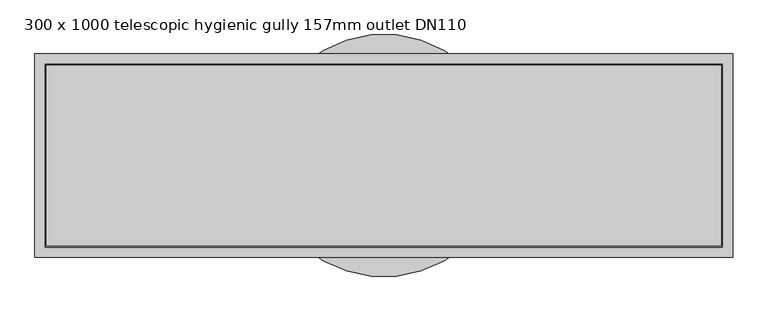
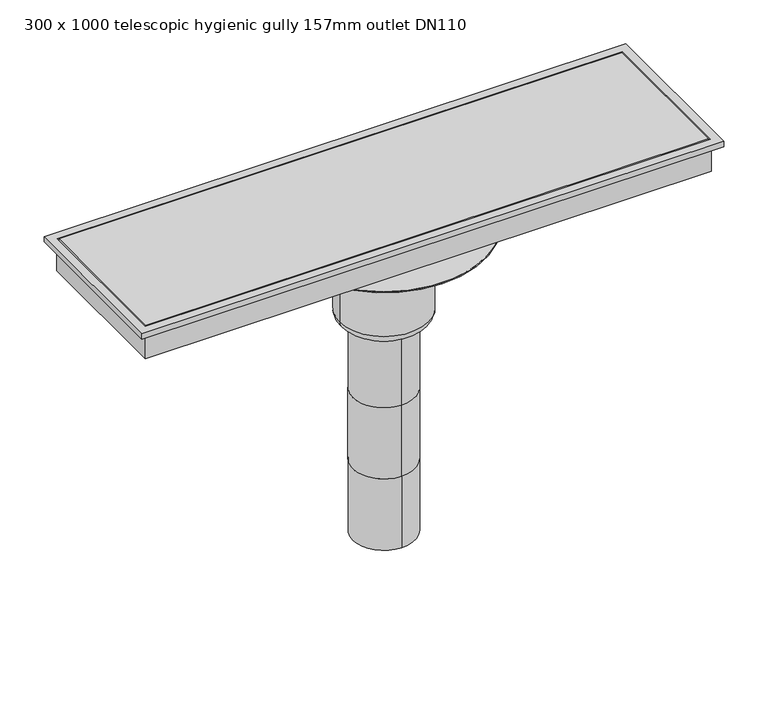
"""IFC4 building model written with IfcOpenShell, lengths in millimetres: sanitary terminal geometry, PF_ST_UN_Siphon telescopics eskis elongated hygiene first_ACO : 300 x 1000 telescopic hygienic gully 157mm outlet DN110."""

import ifcopenshell
import ifcopenshell.guid

model = None  # the IFC model being written
_history = None  # IfcOwnerHistory: only IFC2X3 demands one
_inside = {}  # id of a spatial element -> (the spatial element, [elements in it])
_under = {}  # id of a project, library or spatial element -> (it, [spatial elements below it])
_declared = {}  # id of a project -> (the project, [libraries it declares])
_typed = {}  # id of a type object -> (the type object, [elements of that type])
_made_of = {}  # id of a material, layer set ... -> (it, [elements and type objects made of it])


def new_model(schema):
    """Start an empty IFC model of exactly this schema.

    Asked for "IFC4X3", IfcOpenShell would pick the latest addendum, in which some entities
    have other attributes; the version numbers below select the first issue.
    IFC2X3 requires an IfcOwnerHistory on every rooted entity: one is made here for all.
    """
    global model, _history
    if schema == "IFC4X3":
        model = ifcopenshell.file(schema_version=(4, 3, 0, 0))
    else:
        model = ifcopenshell.file(schema=schema)
    _inside.clear()
    _under.clear()
    _declared.clear()
    _typed.clear()
    _made_of.clear()
    _history = None
    if model.schema == "IFC2X3":
        org = make("IfcOrganization", Name="unknown")
        user = make(
            "IfcPersonAndOrganization",
            ThePerson=make("IfcPerson", FamilyName="unknown"),
            TheOrganization=org,
        )
        app = make(
            "IfcApplication",
            ApplicationDeveloper=org,
            Version="unknown",
            ApplicationFullName="unknown",
            ApplicationIdentifier="unknown",
        )
        _history = make(
            "IfcOwnerHistory",
            OwningUser=user,
            OwningApplication=app,
            ChangeAction="ADDED",
            CreationDate=0,
        )
    return model


def make(cls, **values):
    """One entity of the class cls with the attributes given. An attribute that is None is left unset."""
    return model.create_entity(
        cls, **{name: value for name, value in values.items() if value is not None}
    )


def rooted(cls, **values):
    """An entity with a GlobalId (a new one), such as an element, a storey or a relation."""
    return make(cls, GlobalId=ifcopenshell.guid.new(), OwnerHistory=_history, **values)


def si_unit(unit_type, name, prefix=None):
    """IfcSIUnit, for example si_unit("LENGTHUNIT", "METRE", prefix="MILLI")."""
    return make("IfcSIUnit", UnitType=unit_type, Prefix=prefix, Name=name)


def assignment(units):
    """IfcUnitAssignment: the units of a project."""
    return None if units is None else make("IfcUnitAssignment", Units=units)


def point(xyz):
    """IfcCartesianPoint."""
    return None if xyz is None else make("IfcCartesianPoint", Coordinates=xyz)


def direction(xyz):
    """IfcDirection."""
    return None if xyz is None else make("IfcDirection", DirectionRatios=xyz)


def frame(location, z_axis=None, x_axis=None):
    """IfcAxis2Placement3D, a coordinate frame: its origin and axes. An axis left out is left unset."""
    return make(
        "IfcAxis2Placement3D",
        Location=point(location),
        Axis=direction(z_axis),
        RefDirection=direction(x_axis),
    )


def frame_2d(location, x_axis=None):
    """IfcAxis2Placement2D, a coordinate frame in the plane: its origin and x axis."""
    return make(
        "IfcAxis2Placement2D", Location=point(location), RefDirection=direction(x_axis)
    )


def origin():
    """The frame at (0, 0, 0) with its axes left unset."""
    return frame((0.0, 0.0, 0.0))


def origin_2d():
    """The frame at (0, 0) in the plane with its x axis left unset."""
    return frame_2d((0.0, 0.0))


def place(relative_to, where):
    """IfcLocalPlacement: puts the frame where relative to a parent placement (None: the world)."""
    return make(
        "IfcLocalPlacement", PlacementRelTo=relative_to, RelativePlacement=where
    )


def context(
    kind, dimensions, precision=None, world=None, true_north=None, identifier=None
):
    """IfcGeometricRepresentationContext, for example the 3D "Model" context."""
    return make(
        "IfcGeometricRepresentationContext",
        ContextIdentifier=identifier,
        ContextType=kind,
        CoordinateSpaceDimension=dimensions,
        Precision=precision,
        WorldCoordinateSystem=world,
        TrueNorth=true_north,
    )


def project(units=None, contexts=None):
    """IfcProject with its units and contexts."""
    return rooted(
        "IfcProject",
        Name="project",
        RepresentationContexts=contexts,
        UnitsInContext=assignment(units),
    )


def spatial(cls, under=None, at=None, **own):
    """A site, building, storey or space (cls), placed at a placement, below another one or the project."""
    s = rooted(cls, ObjectPlacement=at, **own)
    if under is not None:
        _under.setdefault(under.id(), (under, []))[1].append(s)
    return s


def polyline(points):
    """IfcPolyline through the points."""
    return make("IfcPolyline", Points=[point(p) for p in points])


def circle_curve(where, radius):
    """IfcCircle in the frame where."""
    return make("IfcCircle", Position=where, Radius=radius)


def ellipse_curve(where, semi_axis1, semi_axis2):
    """IfcEllipse in the frame where."""
    return make(
        "IfcEllipse", Position=where, SemiAxis1=semi_axis1, SemiAxis2=semi_axis2
    )


def trimmed(basis, trim1, trim2, sense, master):
    """IfcTrimmedCurve: the piece of a basis curve between two trims."""
    return make(
        "IfcTrimmedCurve",
        BasisCurve=basis,
        Trim1=trim1,
        Trim2=trim2,
        SenseAgreement=sense,
        MasterRepresentation=master,
    )


def segment(curve, same_sense, transition):
    """IfcCompositeCurveSegment."""
    return make(
        "IfcCompositeCurveSegment",
        Transition=transition,
        SameSense=same_sense,
        ParentCurve=curve,
    )


def composite_curve(segments, self_intersect=None):
    """IfcCompositeCurve: segments joined end to end."""
    return make("IfcCompositeCurve", Segments=segments, SelfIntersect=self_intersect)


def outline(outer, holes=None, kind="AREA"):
    """IfcArbitraryClosedProfileDef: a profile drawn as a closed curve; with holes, ...WithVoids."""
    if holes is None:
        return make("IfcArbitraryClosedProfileDef", ProfileType=kind, OuterCurve=outer)
    return make(
        "IfcArbitraryProfileDefWithVoids",
        ProfileType=kind,
        OuterCurve=outer,
        InnerCurves=holes,
    )


def extrude(swept, where, along, depth):
    """IfcExtrudedAreaSolid: the profile swept, set in the frame where, extruded along a direction by depth."""
    return make(
        "IfcExtrudedAreaSolid",
        SweptArea=swept,
        Position=where,
        ExtrudedDirection=direction(along),
        Depth=depth,
    )


def faces_of(points, faces, orient=None, outer=None):
    """IfcFace entities. A face is a list of loops; a loop is a list of indices into points, from 0.

    orient and outer hold one flag for each loop. By default every Orientation is true, the
    first loop of a face is its IfcFaceOuterBound and the others are IfcFaceBound.
    """
    made = []
    for i, loops in enumerate(faces):
        bounds = []
        for j, loop in enumerate(loops):
            is_outer = j == 0 if outer is None else outer[i][j]
            bounds.append(
                make(
                    "IfcFaceOuterBound" if is_outer else "IfcFaceBound",
                    Bound=make("IfcPolyLoop", Polygon=[points[k] for k in loop]),
                    Orientation=True if orient is None else orient[i][j],
                )
            )
        made.append(make("IfcFace", Bounds=bounds))
    return made


def faceted_brep(points, faces, orient=None, outer=None, voids=None):
    """IfcFacetedBrep: a solid bounded by flat faces; with voids (closed shells), ...WithVoids."""
    shared = [point(p) for p in points]
    hull = make("IfcClosedShell", CfsFaces=faces_of(shared, faces, orient, outer))
    if voids is None:
        return make("IfcFacetedBrep", Outer=hull)
    return make(
        "IfcFacetedBrepWithVoids",
        Outer=hull,
        Voids=[
            make(cls, CfsFaces=faces_of(shared, fs, o, b)) for cls, fs, o, b in voids
        ],
    )


def shape(context_of_items, identifier, shape_type, items):
    """IfcShapeRepresentation: the items that make up one representation, for example the "Body"."""
    return make(
        "IfcShapeRepresentation",
        ContextOfItems=context_of_items,
        RepresentationIdentifier=identifier,
        RepresentationType=shape_type,
        Items=items,
    )


def source(mapping_origin, context_of_items, identifier, shape_type, items):
    """IfcRepresentationMap: a shape defined once, which mapped items show again and again."""
    return make(
        "IfcRepresentationMap",
        MappingOrigin=mapping_origin,
        MappedRepresentation=shape(context_of_items, identifier, shape_type, items),
    )


def transform(
    local_origin,
    x_axis=None,
    y_axis=None,
    z_axis=None,
    scale=None,
    scale2=None,
    scale3=None,
    uniform=True,
):
    """IfcCartesianTransformationOperator3D, or its non-uniform kind. x_axis, y_axis, z_axis: its Axis1, 2, 3."""
    if uniform:
        return make(
            "IfcCartesianTransformationOperator3D",
            Axis1=direction(x_axis),
            Axis2=direction(y_axis),
            LocalOrigin=point(local_origin),
            Scale=scale,
            Axis3=direction(z_axis),
        )
    return make(
        "IfcCartesianTransformationOperator3DnonUniform",
        Axis1=direction(x_axis),
        Axis2=direction(y_axis),
        LocalOrigin=point(local_origin),
        Scale=scale,
        Axis3=direction(z_axis),
        Scale2=scale2,
        Scale3=scale3,
    )


def mapped(mapping_source, mapping_target):
    """IfcMappedItem: shows the shape of a source again, moved by a transform."""
    return make(
        "IfcMappedItem", MappingSource=mapping_source, MappingTarget=mapping_target
    )


def made_of(thing, what):
    """Note that an element or type object is made of a material, layer set ...; save() writes the relation."""
    if what is not None:
        _made_of.setdefault(what.id(), (what, []))[1].append(thing)
    return thing


def element(
    cls,
    number,
    at=None,
    inside=None,
    cuts=None,
    type_object=None,
    material=None,
    context=None,
    identifier="Body",
    shape_type=None,
    held_by="IfcProductDefinitionShape",
    body=None,
    shapes=None,
    **own,
):
    """One element of the class cls, such as IfcWall. Its Tag is "e" and its number.

    at: its placement. inside: the storey or other place that contains it. cuts: it is an
    opening in that element (IfcRelVoidsElement). A single representation is given by context,
    identifier, shape_type and body (its items); several are given by shapes. held_by: the class
    of the entity that holds the representations. save() writes the other relations.
    """
    e = rooted(cls, Tag="e%d" % number, ObjectPlacement=at, **own)
    if body is not None:
        shapes = [shape(context, identifier, shape_type, body)]
    if shapes is not None:
        e.Representation = make(held_by, Representations=shapes)
    if inside is not None:
        _inside.setdefault(inside.id(), (inside, []))[1].append(e)
    if cuts is not None:
        rooted(
            "IfcRelVoidsElement", RelatingBuildingElement=cuts, RelatedOpeningElement=e
        )
    if type_object is not None:
        _typed.setdefault(type_object.id(), (type_object, []))[1].append(e)
    return made_of(e, material)


def aggregate(whole, parts):
    """IfcRelAggregates: a whole, such as a stair, and the parts it consists of."""
    return rooted("IfcRelAggregates", RelatingObject=whole, RelatedObjects=parts)


def save(model, path):
    """Write the relations noted so far, then the file.

    IfcRelAggregates (storeys below a building ...), IfcRelContainedInSpatialStructure (elements
    in a storey), IfcRelDefinesByType, IfcRelAssociatesMaterial and IfcRelDeclares: one each for
    every whole, place, type object, material and project.
    """
    for whole, parts in _under.values():
        aggregate(whole, parts)
    for where, things in _inside.values():
        rooted(
            "IfcRelContainedInSpatialStructure",
            RelatedElements=things,
            RelatingStructure=where,
        )
    for kind, things in _typed.values():
        rooted("IfcRelDefinesByType", RelatedObjects=things, RelatingType=kind)
    for what, things in _made_of.values():
        rooted("IfcRelAssociatesMaterial", RelatedObjects=things, RelatingMaterial=what)
    for by, libraries in _declared.values():
        rooted("IfcRelDeclares", RelatingContext=by, RelatedDefinitions=libraries)
    model.write(path)


def plane_surface(at):
    """IfcPlane: the flat surface through the origin of the frame at, square to its z axis."""
    return make("IfcPlane", Position=at)


def cylinder_surface(at, radius):
    """IfcCylindricalSurface: all points at the distance radius from the z axis of the frame at."""
    return make("IfcCylindricalSurface", Position=at, Radius=radius)


def revolved_surface(curve, axis_point, axis_direction):
    """IfcSurfaceOfRevolution: the curve turned about the line through axis_point along axis_direction."""
    return make(
        "IfcSurfaceOfRevolution",
        SweptCurve=make("IfcArbitraryOpenProfileDef", ProfileType="CURVE", Curve=curve),
        AxisPosition=make("IfcAxis1Placement", Location=point(axis_point), Axis=direction(axis_direction)),
    )


def advanced_brep(points, edges, surfaces, faces):
    """IfcAdvancedBrep: a solid bounded by faces that lie on surfaces and meet in shared edges.

    An edge is (start, end): straight between two places in points (the first is 0);
    or (start, end, curve); or (start, end, curve, False) where it runs against its curve.
    A face is (place in surfaces, loops), or (place, loops, False) where it looks against
    its surface's normal. A loop lists edges by number (the first is 1), with a minus sign
    where the edge is run from its end to its start. The first loop is the outer one.
    """
    corners = [point(p) for p in points]
    vertices = [make("IfcVertexPoint", VertexGeometry=c) for c in corners]
    made = []
    for start, end, *more in edges:
        made.append(
            make(
                "IfcEdgeCurve",
                EdgeStart=vertices[start],
                EdgeEnd=vertices[end],
                EdgeGeometry=more[0] if more else make("IfcPolyline", Points=[corners[start], corners[end]]),
                SameSense=more[1] if len(more) > 1 else True,
            )
        )
    hull = []
    for where, loops, *sense in faces:
        bounds = []
        for j, loop in enumerate(loops):
            ring = [make("IfcOrientedEdge", EdgeElement=made[abs(k) - 1], Orientation=k > 0) for k in loop]
            bounds.append(
                make(
                    "IfcFaceOuterBound" if j == 0 else "IfcFaceBound",
                    Bound=make("IfcEdgeLoop", EdgeList=ring),
                    Orientation=True,
                )
            )
        hull.append(make("IfcAdvancedFace", Bounds=bounds, FaceSurface=surfaces[where], SameSense=sense[0] if sense else True))
    return make("IfcAdvancedBrep", Outer=make("IfcClosedShell", CfsFaces=hull))


def sanitary_terminal_300_x_1000_telescopic_hygienic_gully_157mm_65458a9f(model_context):
    return source(origin(), model_context, "Body", "SolidModel", [
        extrude(outline(composite_curve([segment(trimmed(circle_curve(origin_2d(), 71.5), [point((-71.5, 0.0))], [point((71.5, 0.0))], False, "CARTESIAN"), True, "CONTINUOUS"), segment(trimmed(circle_curve(origin_2d(), 71.5), [point((71.5, 0.0))], [point((-71.5, 0.0))], False, "CARTESIAN"), True, "CONTINUOUS")], self_intersect=False)), frame((0.0, 0.0, -240.0), z_axis=(0.0, 0.0, 1.0), x_axis=(1.0, 0.0, 0.0)), (0.0, 0.0, 1.0), 60.0),
        faceted_brep([(515.0, 150.0, -130.0), (515.0, 150.0, -120.0), (515.0, -150.0, -120.0), (515.0, -150.0, -130.0), (501.0, 136.0, -180.0), (501.0, 136.0, -130.0), (501.0, -136.0, -130.0), (501.0, -136.0, -180.0), (500.0, -135.0, -120.0), (500.0, 135.0, -120.0), (500.0, 135.0, -170.0), (500.0, -135.0, -170.0), (-515.0, -150.0, -120.0), (-515.0, -150.0, -130.0), (-501.0, -136.0, -130.0), (-501.0, -136.0, -180.0), (-500.0, -135.0, -120.0), (-500.0, -135.0, -170.0), (-515.0, 150.0, -120.0), (-515.0, 150.0, -130.0), (-501.0, 136.0, -130.0), (-501.0, 136.0, -180.0), (-500.0, 135.0, -120.0), (-500.0, 135.0, -170.0)], [[[0, 1, 2, 3]], [[4, 5, 6, 7]], [[8, 9, 10, 11]], [[3, 2, 12, 13]], [[7, 6, 14, 15]], [[16, 8, 11, 17]], [[13, 12, 18, 19]], [[15, 14, 20, 21]], [[22, 16, 17, 23]], [[2, 1, 18, 12], [9, 8, 16, 22]], [[1, 0, 19, 18]], [[0, 3, 13, 19], [6, 5, 20, 14]], [[5, 4, 21, 20]], [[4, 7, 15, 21]], [[9, 22, 23, 10]], [[11, 10, 23, 17]]]),
        extrude(outline(polyline([(498.0, 133.0), (498.0, -133.0), (-498.0, -133.0), (-498.0, 133.0), (498.0, 133.0)])), frame((0.0, 0.0, -170.0), z_axis=(0.0, 0.0, 1.0), x_axis=(1.0, 0.0, 0.0)), (0.0, 0.0, 1.0), 50.0),
        advanced_brep(
        [(0.0, -55.0, -758.0), (0.0, 55.0, -758.0), (0.0, -55.0, -624.6666667), (0.0, 55.0, -624.6666667), (0.0, -55.0, -491.3333333), (0.0, 55.0, -491.3333333), (0.0, 55.0, -358.0), (55.0, 0.0, -358.0), (0.0, -55.0, -358.0), (-55.0, 0.0, -358.0), (78.5, 0.0, -341.5), (-78.5, 0.0, -341.5), (-78.5, 0.0, -189.0), (78.5, 0.0, -189.0), (62.0, 0.0, -358.0), (-62.0, 0.0, -358.0), (-179.0, 0.0, -189.0), (179.0, 0.0, -189.0), (-179.0, 0.0, -187.0), (179.0, 0.0, -187.0)],
        [
            (0, 1, circle_curve(frame((0.0, 0.0, -758.0), z_axis=(0.0, 0.0, -1.0), x_axis=(0.0, 1.0, 0.0)), 55.0)),
            (1, 0, circle_curve(frame((0.0, 0.0, -758.0), z_axis=(0.0, 0.0, -1.0), x_axis=(0.0, 1.0, 0.0)), 55.0)),
            (0, 2),
            (2, 3, circle_curve(frame((0.0, 0.0, -624.6666667), z_axis=(0.0, 0.0, -1.0), x_axis=(0.0, 1.0, 0.0)), 55.0)),
            (3, 1),
            (3, 2, circle_curve(frame((0.0, 0.0, -624.6666667), z_axis=(0.0, 0.0, -1.0), x_axis=(0.0, 1.0, 0.0)), 55.0)),
            (4, 2),
            (3, 5),
            (5, 4, circle_curve(frame((0.0, 0.0, -491.3333333), z_axis=(0.0, 0.0, -1.0), x_axis=(1.0, 0.0, 0.0)), 55.0)),
            (4, 5, circle_curve(frame((0.0, 0.0, -491.3333333), z_axis=(0.0, 0.0, -1.0), x_axis=(-1.0, 0.0, 0.0)), 55.0)),
            (5, 6),
            (6, 7, circle_curve(frame((0.0, 0.0, -358.0), z_axis=(0.0, 0.0, -1.0), x_axis=(0.0, 1.0, 0.0)), 55.0)),
            (7, 8, circle_curve(frame((0.0, 0.0, -358.0), z_axis=(0.0, 0.0, -1.0), x_axis=(0.0, 1.0, 0.0)), 55.0)),
            (8, 4),
            (8, 9, circle_curve(frame((0.0, 0.0, -358.0), z_axis=(0.0, 0.0, -1.0), x_axis=(0.0, 1.0, 0.0)), 55.0)),
            (9, 6, circle_curve(frame((0.0, 0.0, -358.0), z_axis=(0.0, 0.0, -1.0), x_axis=(0.0, 1.0, 0.0)), 55.0)),
            (10, 11, circle_curve(frame((0.0, 0.0, -341.5), z_axis=(0.0, 0.0, 1.0), x_axis=(-1.0, 0.0, 0.0)), 78.5)),
            (11, 12),
            (12, 13, circle_curve(frame((0.0, 0.0, -189.0), z_axis=(0.0, 0.0, -1.0), x_axis=(-1.0, 0.0, 0.0)), 78.5)),
            (13, 10),
            (11, 10, circle_curve(frame((0.0, 0.0, -341.5), z_axis=(0.0, 0.0, 1.0), x_axis=(-1.0, 0.0, 0.0)), 78.5)),
            (13, 12, circle_curve(frame((0.0, 0.0, -189.0), z_axis=(0.0, 0.0, -1.0), x_axis=(-1.0, 0.0, 0.0)), 78.5)),
            (10, 14, circle_curve(frame((62.0, 0.0, -341.5), z_axis=(0.0, 1.0, 0.0), x_axis=(-1.0, 0.0, 0.0)), 16.5)),
            (14, 15, circle_curve(frame((0.0, 0.0, -358.0), z_axis=(0.0, 0.0, 1.0), x_axis=(-1.0, 0.0, 0.0)), 62.0)),
            (15, 11, circle_curve(frame((-62.0, 0.0, -341.5), z_axis=(0.0, 1.0, 0.0), x_axis=(1.0, 0.0, 0.0)), 16.5)),
            (15, 14, circle_curve(frame((0.0, 0.0, -358.0), z_axis=(0.0, 0.0, 1.0), x_axis=(-1.0, 0.0, 0.0)), 62.0)),
            (14, 7),
            (9, 15),
            (16, 17, circle_curve(frame((0.0, 0.0, -189.0), z_axis=(0.0, 0.0, -1.0), x_axis=(1.0, 0.0, 0.0)), 179.0)),
            (17, 16, circle_curve(frame((0.0, 0.0, -189.0), z_axis=(0.0, 0.0, -1.0), x_axis=(1.0, 0.0, 0.0)), 179.0)),
            (18, 19, circle_curve(frame((0.0, 0.0, -187.0), z_axis=(0.0, 0.0, 1.0), x_axis=(1.0, 0.0, 0.0)), 179.0)),
            (19, 18, circle_curve(frame((0.0, 0.0, -187.0), z_axis=(0.0, 0.0, 1.0), x_axis=(1.0, 0.0, 0.0)), 179.0)),
            (17, 19),
            (18, 16),
        ],
        [
            plane_surface(frame((0.0, 55.0, -758.0), z_axis=(0.0, 0.0, -1.0), x_axis=(1.0, 0.0, 0.0))),
            cylinder_surface(frame((0.0, 0.0, -624.6666667), z_axis=(0.0, 0.0, -1.0), x_axis=(0.0, 1.0, 0.0)), 55.0),
            cylinder_surface(frame((0.0, 0.0, -491.3333333), z_axis=(0.0, 0.0, -1.0), x_axis=(1.0, 0.0, 0.0)), 55.0),
            cylinder_surface(frame((0.0, 0.0, -491.3333333), z_axis=(0.0, 0.0, -1.0), x_axis=(-1.0, 0.0, 0.0)), 55.0),
            cylinder_surface(frame((0.0, 0.0, -358.0), z_axis=(0.0, 0.0, -1.0), x_axis=(0.0, 1.0, 0.0)), 55.0),
            cylinder_surface(frame((0.0, 0.0, -127.0), z_axis=(0.0, 0.0, -1.0), x_axis=(-1.0, 0.0, 0.0)), 78.5),
            revolved_surface(trimmed(ellipse_curve(frame((-62.0, 0.0, -341.5), z_axis=(0.0, -1.0, 0.0), x_axis=(1.0, 0.0, 0.0)), 16.5, 16.5), [point((-78.5, 0.0, -341.5))], [point((-62.0, 0.0, -358.0))], True, "CARTESIAN"), (0.0, 0.0, -127.0), (0.0, 0.0, -1.0)),
            plane_surface(frame((0.0, 0.0, -358.0), z_axis=(0.0, 0.0, -1.0), x_axis=(-1.0, 0.0, 0.0))),
            plane_surface(frame((179.0, 0.0, -189.0), z_axis=(0.0, 0.0, -1.0), x_axis=(0.0, -1.0, 0.0))),
            plane_surface(frame((179.0, 0.0, -187.0), z_axis=(0.0, 0.0, 1.0), x_axis=(0.0, 1.0, 0.0))),
            cylinder_surface(frame((0.0, 0.0, -189.0), z_axis=(0.0, 0.0, 1.0), x_axis=(1.0, 0.0, 0.0)), 179.0),
        ],
        [
            (0, [[1, 2]]),
            (1, [[-1, 3, 4, 5]]),
            (1, [[-2, -5, 6, -3]]),
            (2, [[7, -6, 8, 9]]),
            (3, [[-7, 10, -8, -4]]),
            (4, [[11, 12, 13, 14, -9]]),
            (4, [[-11, -10, -14, 15, 16]]),
            (5, [[17, 18, 19, 20]]),
            (5, [[-18, 21, -20, 22]]),
            (6, [[-17, 23, 24, 25]]),
            (6, [[-21, -25, 26, -23]]),
            (7, [[-24, 27, -12, -16, 28]]),
            (7, [[-26, -28, -15, -13, -27]]),
            (8, [[29, 30], [-19, -22]]),
            (9, [[31, 32]]),
            (10, [[-30, 33, -31, 34]]),
            (10, [[-29, -34, -32, -33]]),
        ],
    ),
    ])


if __name__ == "__main__":
    model = new_model("IFC4")
    model_context = context("Model", 3, world=origin())
    ifc_project = project(units=[si_unit("LENGTHUNIT", "METRE", prefix="MILLI")], contexts=[model_context])
    site = spatial("IfcSite", under=ifc_project)
    building = spatial("IfcBuilding", under=site)
    placement = place(None, origin())
    sanitary_terminal_300_x_1000_telescopic_hygienic_gully_157mm_shape = sanitary_terminal_300_x_1000_telescopic_hygienic_gully_157mm_65458a9f(model_context)
    element("IfcSanitaryTerminal", 1, ObjectType="PF_ST_UN_Siphon telescopics eskis elongated hygiene first_ACO : 300 x 1000 telescopic hygienic gully 157mm outlet DN110", at=placement, inside=building, context=model_context, shape_type="MappedRepresentation", body=[
        mapped(sanitary_terminal_300_x_1000_telescopic_hygienic_gully_157mm_shape, transform((0.0, 0.0, 0.0), x_axis=(1.0, 0.0, 0.0), y_axis=(0.0, 1.0, 0.0), z_axis=(0.0, 0.0, 1.0))),
    ])
    save(model, "model.ifc")
